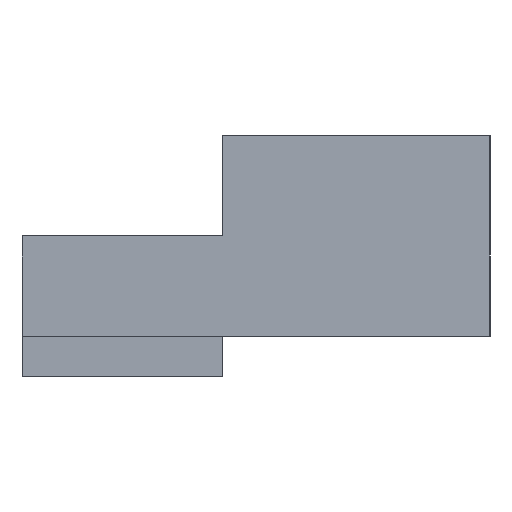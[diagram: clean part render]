
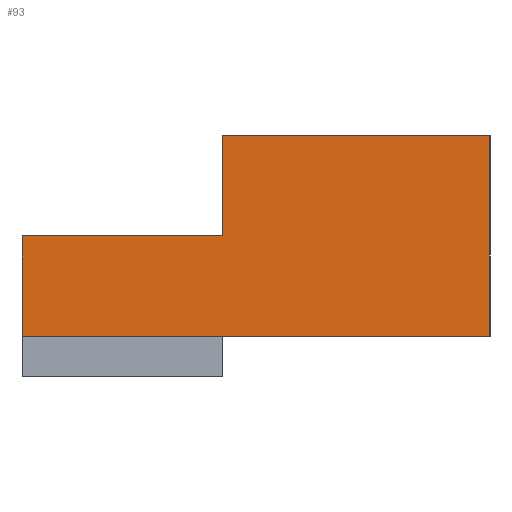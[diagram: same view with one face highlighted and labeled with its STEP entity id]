
A CAD part, left-side view. The second image highlights one B-rep face of the part: STEP entity #93.
In plain terms, the highlighted planar face has unit normal (-1, 0, 0).
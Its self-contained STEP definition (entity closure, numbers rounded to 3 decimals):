
#93=ADVANCED_FACE('',(#257),#259,.T.);
#257=FACE_BOUND('',#258,.T.);
#258=EDGE_LOOP('',(#376,#377,#378,#379,#380,#381));
#259=PLANE('',#260);
#260=AXIS2_PLACEMENT_3D('',#261,#262,#263);
#261=CARTESIAN_POINT('',(-40.,-17.5,0.));
#262=DIRECTION('',(-1.,0.,0.));
#263=DIRECTION('',(0.,0.,1.));
#376=ORIENTED_EDGE('',*,*,#460,.T.);
#377=ORIENTED_EDGE('',*,*,#463,.T.);
#378=ORIENTED_EDGE('',*,*,#464,.F.);
#379=ORIENTED_EDGE('',*,*,#447,.F.);
#380=ORIENTED_EDGE('',*,*,#465,.T.);
#381=ORIENTED_EDGE('',*,*,#441,.T.);
#441=EDGE_CURVE('',#489,#487,#490,.T.);
#447=EDGE_CURVE('',#499,#501,#502,.T.);
#460=EDGE_CURVE('',#487,#526,#527,.F.);
#463=EDGE_CURVE('',#526,#531,#532,.F.);
#464=EDGE_CURVE('',#501,#531,#533,.T.);
#465=EDGE_CURVE('',#499,#489,#534,.T.);
#487=VERTEX_POINT('',#565);
#489=VERTEX_POINT('',#569);
#490=LINE('',#570,#571);
#499=VERTEX_POINT('',#591);
#501=VERTEX_POINT('',#595);
#502=LINE('',#596,#597);
#526=VERTEX_POINT('',#648);
#527=LINE('',#649,#650);
#531=VERTEX_POINT('',#659);
#532=LINE('',#660,#661);
#533=LINE('',#663,#664);
#534=LINE('',#666,#667);
#565=CARTESIAN_POINT('',(-40.,2.5,15.));
#569=CARTESIAN_POINT('',(-40.,-17.5,15.));
#570=CARTESIAN_POINT('',(-40.,-17.5,15.));
#571=VECTOR('',#572,1.);
#572=DIRECTION('',(0.,1.,0.));
#591=CARTESIAN_POINT('',(-40.,-17.5,0.));
#595=CARTESIAN_POINT('',(-40.,17.5,0.));
#596=CARTESIAN_POINT('',(-40.,-17.5,0.));
#597=VECTOR('',#598,1.);
#598=DIRECTION('',(0.,1.,0.));
#648=CARTESIAN_POINT('',(-40.,2.5,7.5));
#649=CARTESIAN_POINT('',(-40.,2.5,7.5));
#650=VECTOR('',#651,1.);
#651=DIRECTION('',(0.,0.,1.));
#659=CARTESIAN_POINT('',(-40.,17.5,7.5));
#660=CARTESIAN_POINT('',(-40.,17.5,7.5));
#661=VECTOR('',#662,1.);
#662=DIRECTION('',(0.,-1.,0.));
#663=CARTESIAN_POINT('',(-40.,17.5,0.));
#664=VECTOR('',#665,1.);
#665=DIRECTION('',(0.,0.,1.));
#666=CARTESIAN_POINT('',(-40.,-17.5,0.));
#667=VECTOR('',#668,1.);
#668=DIRECTION('',(0.,0.,1.));
